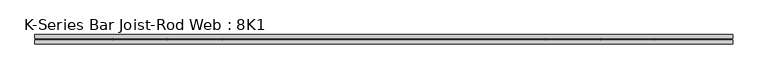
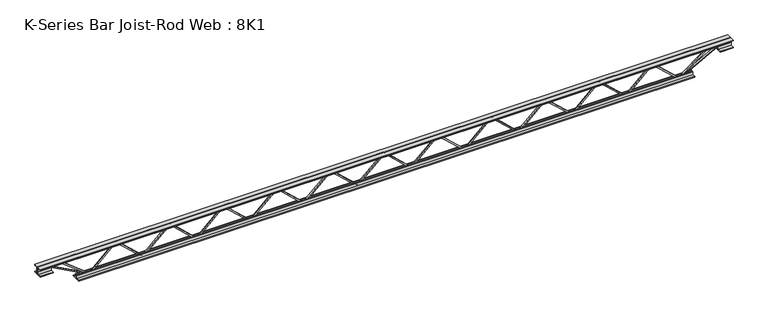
"""IFC4 building model written with IfcOpenShell, lengths in millimetres: beam geometry, K-Series Bar Joist-Rod Web : 8K1."""

from ifc_helpers import new_model, si_unit, frame, origin, place, context, project, spatial, polyline, outline, extrude, source, transform, mapped, element, save


def k_series_bar_joist_rod_web_8k1_abf054b3(model_context):
    return source(origin(), model_context, "Body", "SweptSolid", [
        extrude(outline(polyline([(-90.4875, 1487.0545455), (-100.0125, 1487.0545455), (-100.0125, 1492.0935213), (90.4875, 1698.1798849), (90.4875, 1700.8019332), (-100.0125, 1906.8882969), (-100.0125, 1911.9272727), (-90.4875, 1911.9272727), (-90.4875, 1910.6162486), (100.0125, 1704.5298849), (100.0125, 1694.4519332), (-90.4875, 1488.3655696), (-90.4875, 1487.0545455)])), frame((0.0, -4.7625, 0.0), z_axis=(0.0, 1.0, 0.0), x_axis=(0.0, 0.0, 1.0)), (0.0, 0.0, 1.0), 9.525),
        extrude(outline(polyline([(-90.4875, 1062.1818182), (-100.0125, 1062.1818182), (-100.0125, 1067.220794), (90.4875, 1273.3071577), (90.4875, 1275.929206), (-100.0125, 1482.0155696), (-100.0125, 1487.0545455), (-90.4875, 1487.0545455), (-90.4875, 1485.7435213), (100.0125, 1279.6571577), (100.0125, 1269.579206), (-90.4875, 1063.4928423), (-90.4875, 1062.1818182)])), frame((0.0, -4.7625, 0.0), z_axis=(0.0, 1.0, 0.0), x_axis=(0.0, 0.0, 1.0)), (0.0, 0.0, 1.0), 9.525),
        extrude(outline(polyline([(-90.4875, 637.3090909), (-100.0125, 637.3090909), (-100.0125, 642.3480668), (90.4875, 848.4344304), (90.4875, 851.0564787), (-100.0125, 1057.1428423), (-100.0125, 1062.1818182), (-90.4875, 1062.1818182), (-90.4875, 1060.870794), (100.0125, 854.7844304), (100.0125, 844.7064787), (-90.4875, 638.6201151), (-90.4875, 637.3090909)])), frame((0.0, -4.7625, 0.0), z_axis=(0.0, 1.0, 0.0), x_axis=(0.0, 0.0, 1.0)), (0.0, 0.0, 1.0), 9.525),
        extrude(outline(polyline([(-90.4875, 212.4363636), (-100.0125, 212.4363636), (-100.0125, 217.4753395), (90.4875, 423.5617031), (90.4875, 426.1837514), (-100.0125, 632.2701151), (-100.0125, 637.3090909), (-90.4875, 637.3090909), (-90.4875, 635.9980668), (100.0125, 429.9117031), (100.0125, 419.8337514), (-90.4875, 213.7473878), (-90.4875, 212.4363636)])), frame((0.0, -4.7625, 0.0), z_axis=(0.0, 1.0, 0.0), x_axis=(0.0, 0.0, 1.0)), (0.0, 0.0, 1.0), 9.525),
        extrude(outline(polyline([(-90.4875, -212.4363636), (-100.0125, -212.4363636), (-100.0125, -207.3973878), (90.4875, -1.3110241), (90.4875, 1.3110241), (-100.0125, 207.3973878), (-100.0125, 212.4363636), (-90.4875, 212.4363636), (-90.4875, 211.1253395), (100.0125, 5.0389759), (100.0125, -5.0389759), (-90.4875, -211.1253395), (-90.4875, -212.4363636)])), frame((0.0, -4.7625, 0.0), z_axis=(0.0, 1.0, 0.0), x_axis=(0.0, 0.0, 1.0)), (0.0, 0.0, 1.0), 9.525),
        extrude(outline(polyline([(-90.4875, -637.3090909), (-100.0125, -637.3090909), (-100.0125, -632.2701151), (90.4875, -426.1837514), (90.4875, -423.5617031), (-100.0125, -217.4753395), (-100.0125, -212.4363636), (-90.4875, -212.4363636), (-90.4875, -213.7473878), (100.0125, -419.8337514), (100.0125, -429.9117031), (-90.4875, -635.9980668), (-90.4875, -637.3090909)])), frame((0.0, -4.7625, 0.0), z_axis=(0.0, 1.0, 0.0), x_axis=(0.0, 0.0, 1.0)), (0.0, 0.0, 1.0), 9.525),
        extrude(outline(polyline([(-90.4875, -1062.1818182), (-100.0125, -1062.1818182), (-100.0125, -1057.1428423), (90.4875, -851.0564787), (90.4875, -848.4344304), (-100.0125, -642.3480668), (-100.0125, -637.3090909), (-90.4875, -637.3090909), (-90.4875, -638.6201151), (100.0125, -844.7064787), (100.0125, -854.7844304), (-90.4875, -1060.870794), (-90.4875, -1062.1818182)])), frame((0.0, -4.7625, 0.0), z_axis=(0.0, 1.0, 0.0), x_axis=(0.0, 0.0, 1.0)), (0.0, 0.0, 1.0), 9.525),
        extrude(outline(polyline([(-90.4875, -1487.0545455), (-100.0125, -1487.0545455), (-100.0125, -1482.0155696), (90.4875, -1275.929206), (90.4875, -1273.3071577), (-100.0125, -1067.220794), (-100.0125, -1062.1818182), (-90.4875, -1062.1818182), (-90.4875, -1063.4928423), (100.0125, -1269.579206), (100.0125, -1279.6571577), (-90.4875, -1485.7435213), (-90.4875, -1487.0545455)])), frame((0.0, -4.7625, 0.0), z_axis=(0.0, 1.0, 0.0), x_axis=(0.0, 0.0, 1.0)), (0.0, 0.0, 1.0), 9.525),
        extrude(outline(polyline([(-90.4875, -1911.9272727), (-100.0125, -1911.9272727), (-100.0125, -1906.8882969), (90.4875, -1700.8019332), (90.4875, -1698.1798849), (-100.0125, -1492.0935213), (-100.0125, -1487.0545455), (-90.4875, -1487.0545455), (-90.4875, -1488.3655696), (100.0125, -1694.4519332), (100.0125, -1704.5298849), (-90.4875, -1910.6162486), (-90.4875, -1911.9272727)])), frame((0.0, -4.7625, 0.0), z_axis=(0.0, 1.0, 0.0), x_axis=(0.0, 0.0, 1.0)), (0.0, 0.0, 1.0), 9.525),
        extrude(outline(polyline([(-90.4875, 1911.9272727), (-100.0125, 1911.9272727), (-100.0125, 1916.9662486), (90.4875, 2123.0526122), (90.4875, 2125.6746605), (-100.0125, 2331.7610241), (-100.0125, 2336.8), (-90.4875, 2336.8), (-90.4875, 2335.4889759), (100.0125, 2129.4026122), (100.0125, 2119.3246605), (-90.4875, 1913.2382969), (-90.4875, 1911.9272727)])), frame((0.0, -4.7625, 0.0), z_axis=(0.0, 1.0, 0.0), x_axis=(0.0, 0.0, 1.0)), (0.0, 0.0, 1.0), 9.525),
        extrude(outline(polyline([(-90.4875, -2336.8), (-100.0125, -2336.8), (-100.0125, -2331.7610241), (90.4875, -2125.6746605), (90.4875, -2123.0526122), (-100.0125, -1916.9662486), (-100.0125, -1911.9272727), (-90.4875, -1911.9272727), (-90.4875, -1913.2382969), (100.0125, -2119.3246605), (100.0125, -2129.4026122), (-90.4875, -2335.4889759), (-90.4875, -2336.8)])), frame((0.0, -4.7625, 0.0), z_axis=(0.0, 1.0, 0.0), x_axis=(0.0, 0.0, 1.0)), (0.0, 0.0, 1.0), 9.525),
        extrude(outline(polyline([(4.7625, 101.6), (36.5125, 101.6), (36.5125, 95.25), (11.1125, 95.25), (11.1125, 69.85), (4.7625, 69.85), (4.7625, 101.6)])), frame((-2743.2, 0.0, 0.0), z_axis=(1.0, 0.0, 0.0), x_axis=(0.0, 1.0, 0.0)), (0.0, 0.0, 1.0), 5486.4),
        extrude(outline(polyline([(-4.7625, 101.6), (-4.7625, 69.85), (-11.1125, 69.85), (-11.1125, 95.25), (-36.5125, 95.25), (-36.5125, 101.6), (-4.7625, 101.6)])), frame((-2743.2, 0.0, 0.0), z_axis=(1.0, 0.0, 0.0), x_axis=(0.0, 1.0, 0.0)), (0.0, 0.0, 1.0), 5486.4),
        extrude(outline(polyline([(-4.7625, 38.1), (-36.5125, 38.1), (-36.5125, 44.45), (-11.1125, 44.45), (-11.1125, 69.85), (-4.7625, 69.85), (-4.7625, 38.1)])), frame((-2743.2, 0.0, 0.0), z_axis=(1.0, 0.0, 0.0), x_axis=(0.0, 1.0, 0.0)), (0.0, 0.0, 1.0), 101.6),
        extrude(outline(polyline([(36.5125, 38.1), (4.7625, 38.1), (4.7625, 69.85), (11.1125, 69.85), (11.1125, 44.45), (36.5125, 44.45), (36.5125, 38.1)])), frame((-2743.2, 0.0, 0.0), z_axis=(1.0, 0.0, 0.0), x_axis=(0.0, 1.0, 0.0)), (0.0, 0.0, 1.0), 101.6),
        extrude(outline(polyline([(4.7625, 38.1), (4.7625, 69.85), (11.1125, 69.85), (11.1125, 44.45), (36.5125, 44.45), (36.5125, 38.1), (4.7625, 38.1)])), frame((2641.6, 0.0, 0.0), z_axis=(1.0, 0.0, 0.0), x_axis=(0.0, 1.0, 0.0)), (0.0, 0.0, 1.0), 101.6),
        extrude(outline(polyline([(-4.7625, 38.1), (-36.5125, 38.1), (-36.5125, 44.45), (-11.1125, 44.45), (-11.1125, 69.85), (-4.7625, 69.85), (-4.7625, 38.1)])), frame((2641.6, 0.0, 0.0), z_axis=(1.0, 0.0, 0.0), x_axis=(0.0, 1.0, 0.0)), (0.0, 0.0, 1.0), 101.6),
        extrude(outline(polyline([(4.7625, -101.6), (4.7625, -69.85), (11.1125, -69.85), (11.1125, -95.25), (36.5125, -95.25), (36.5125, -101.6), (4.7625, -101.6)])), frame((-2438.4, 0.0, 0.0), z_axis=(1.0, 0.0, 0.0), x_axis=(0.0, 1.0, 0.0)), (0.0, 0.0, 1.0), 4876.8),
        extrude(outline(polyline([(-4.7625, -101.6), (-36.5125, -101.6), (-36.5125, -95.25), (-11.1125, -95.25), (-11.1125, -69.85), (-4.7625, -69.85), (-4.7625, -101.6)])), frame((-2438.4, 0.0, 0.0), z_axis=(1.0, 0.0, 0.0), x_axis=(0.0, 1.0, 0.0)), (0.0, 0.0, 1.0), 4876.8),
        extrude(outline(polyline([(0.0, -9.525), (0.0, 0.0), (346.6425392, 0.0), (346.6425392, -9.525), (0.0, -9.525)])), frame((-2643.8682985, 4.7625, 65.662372), z_axis=(0.47628314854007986, 0.0, 0.8792919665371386), x_axis=(0.8792919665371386, 0.0, -0.47628314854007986)), (0.0, 0.0, 1.0), 9.525),
        extrude(outline(polyline([(0.0, -9.525), (0.0, 0.0), (269.048729, 0.0), (269.048729, -9.525), (0.0, -9.525)])), frame((-2552.1588407, 4.7625, 66.0896099), z_axis=(0.6136434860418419, 0.0, 0.7895832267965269), x_axis=(0.7895832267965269, 0.0, -0.6136434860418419)), (0.0, 0.0, 1.0), 9.525),
        extrude(outline(polyline([(0.0, -9.525), (0.0, 0.0), (346.6425392, 0.0), (346.6425392, -9.525), (0.0, -9.525)])), frame((2643.8682985, -4.7625, 65.662372), z_axis=(-0.4762831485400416, 0.0, 0.8792919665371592), x_axis=(-0.8792919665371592, 0.0, -0.4762831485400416)), (0.0, 0.0, 1.0), 9.525),
        extrude(outline(polyline([(0.0, -9.525), (0.0, 0.0), (269.048729, 0.0), (269.048729, -9.525), (0.0, -9.525)])), frame((2552.1588407, -4.7625, 66.0896099), z_axis=(-0.6136434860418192, 0.0, 0.7895832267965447), x_axis=(-0.7895832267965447, 0.0, -0.6136434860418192)), (0.0, 0.0, 1.0), 9.525),
    ])


if __name__ == "__main__":
    model = new_model("IFC4")
    model_context = context("Model", 3, world=origin())
    ifc_project = project(units=[si_unit("LENGTHUNIT", "METRE", prefix="MILLI")], contexts=[model_context])
    site = spatial("IfcSite", under=ifc_project)
    building = spatial("IfcBuilding", under=site)
    placement = place(None, origin())
    k_series_bar_joist_rod_web_8k1_shape = k_series_bar_joist_rod_web_8k1_abf054b3(model_context)
    element("IfcBeam", 1, ObjectType="K-Series Bar Joist-Rod Web : 8K1", at=placement, inside=building, context=model_context, shape_type="MappedRepresentation", body=[
        mapped(k_series_bar_joist_rod_web_8k1_shape, transform((0.0, 0.0, 0.0), x_axis=(1.0, 0.0, 0.0), y_axis=(0.0, 1.0, 0.0), z_axis=(0.0, 0.0, 1.0))),
    ])
    save(model, "model.ifc")
